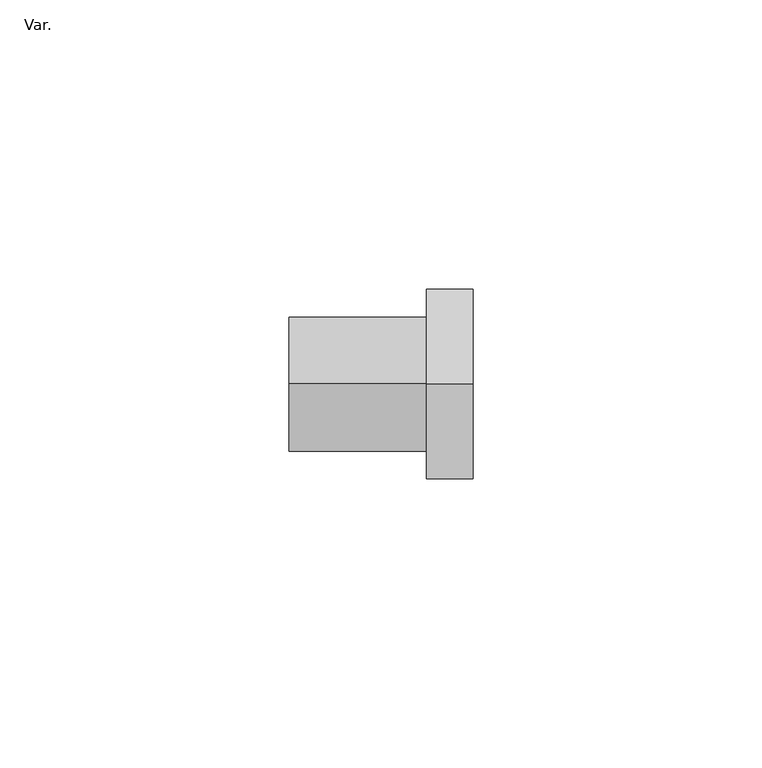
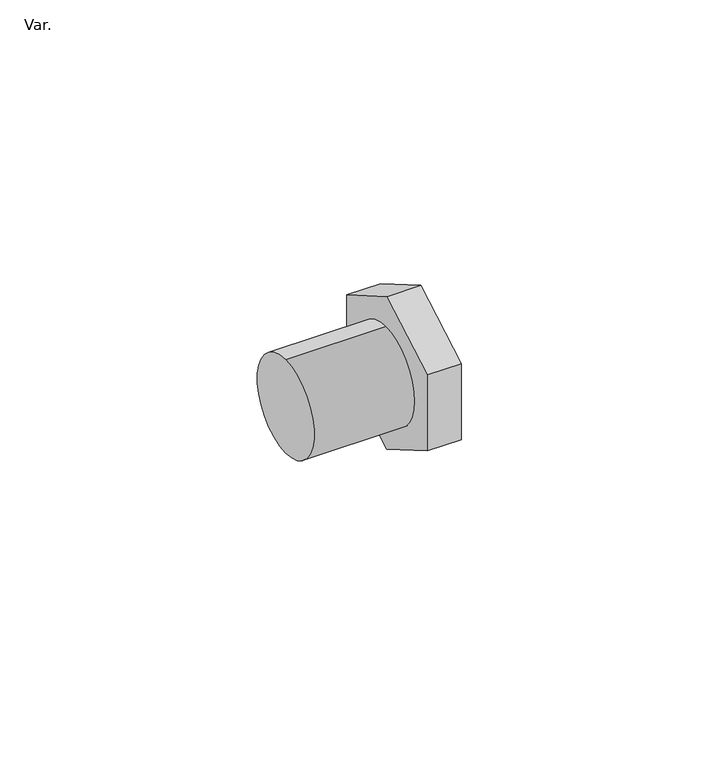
"""IFC4 building model written with IfcOpenShell, lengths in millimetres: pipe fitting geometry, AmancoWavin_Unionesdetubería_TigrisFlexZNoUsarRoscaMacho-MachoManifold(nested) : Var.."""

from ifc_helpers import new_model, si_unit, point, frame, origin, origin_2d, place, context, project, spatial, polyline, circle_curve, trimmed, segment, composite_curve, outline, extrude, source, transform, mapped, element, save


def var_47cb32f1(model_context):
    return source(origin(), model_context, "Body", "SweptSolid", [
        extrude(outline(polyline([(16.4, -9.4685444), (0.0, -18.9370888), (-16.4, -9.4685444), (-16.4, 9.4685444), (0.0, 18.9370888), (16.4, 9.4685444), (16.4, -9.4685444)])), frame((-34.2, 0.0, 0.0), z_axis=(1.0, 0.0, 0.0), x_axis=(0.0, 1.0, 0.0)), (0.0, 0.0, 1.0), 8.0),
        extrude(outline(composite_curve([segment(trimmed(circle_curve(origin_2d(), 11.6), [point((0.0, -11.6))], [point((0.0, 11.6))], False, "CARTESIAN"), True, "CONTINUOUS"), segment(trimmed(circle_curve(origin_2d(), 11.6), [point((0.0, 11.6))], [point((0.0, -11.6))], False, "CARTESIAN"), True, "CONTINUOUS")], self_intersect=False)), frame((-58.0, 0.0, 0.0), z_axis=(1.0, 0.0, 0.0), x_axis=(0.0, 1.0, 0.0)), (0.0, 0.0, 1.0), 23.8),
    ])


if __name__ == "__main__":
    model = new_model("IFC4")
    model_context = context("Model", 3, world=origin())
    ifc_project = project(units=[si_unit("LENGTHUNIT", "METRE", prefix="MILLI")], contexts=[model_context])
    site = spatial("IfcSite", under=ifc_project)
    building = spatial("IfcBuilding", under=site)
    placement = place(None, origin())
    var_shape = var_47cb32f1(model_context)
    element("IfcPipeFitting", 1, ObjectType="AmancoWavin_Unionesdetubería_TigrisFlexZNoUsarRoscaMacho-MachoManifold(nested) : Var.", at=placement, inside=building, context=model_context, shape_type="MappedRepresentation", body=[
        mapped(var_shape, transform((0.0, 0.0, 0.0), x_axis=(1.0, 0.0, 0.0), y_axis=(0.0, 1.0, 0.0), z_axis=(0.0, 0.0, 1.0))),
    ])
    save(model, "model.ifc")
